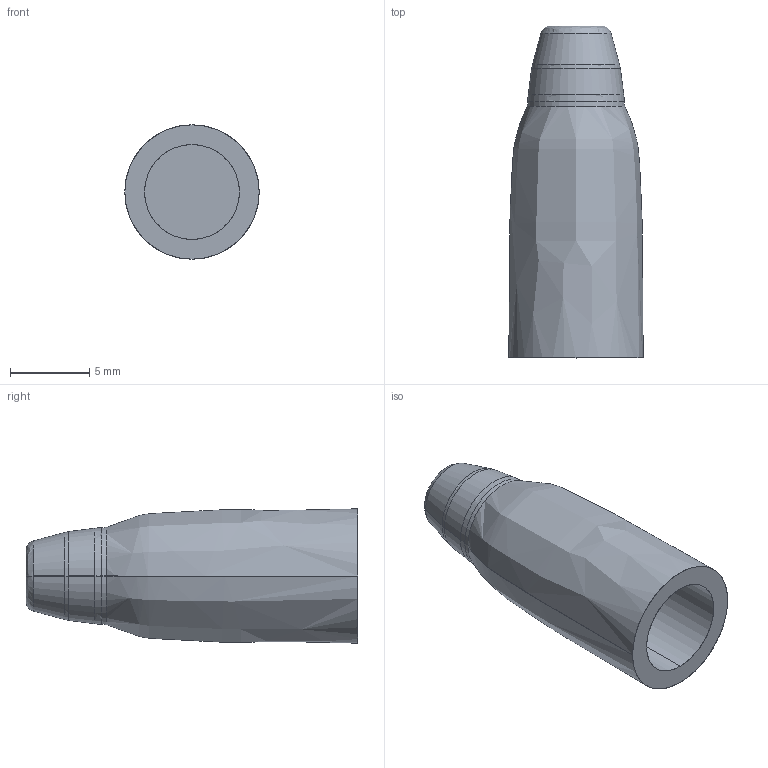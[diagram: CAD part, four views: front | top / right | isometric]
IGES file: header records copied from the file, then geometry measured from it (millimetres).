
Start section: SolidWorks IGES file using analytic representation for surfaces
Global section: file name: G:\SILVENT AB\ENGINEERING\Drawings\ÖVRIGT\IGES\SILVENT B02.IGS; native system: SolidWorks 2016; preprocessor: SolidWorks 2016; author: P.Svensson; date: 200527.131501; units: millimetre
Bounding box: 8.5 x 21 x 8.5 mm (x, y, z)
Surface area: 753.7 mm2 (no closed solid volume)
Topology: 0 solids, 0 shells, 34 faces, 312 edges, 312 vertices
Faces by surface type: bspline 22, revolution 12
